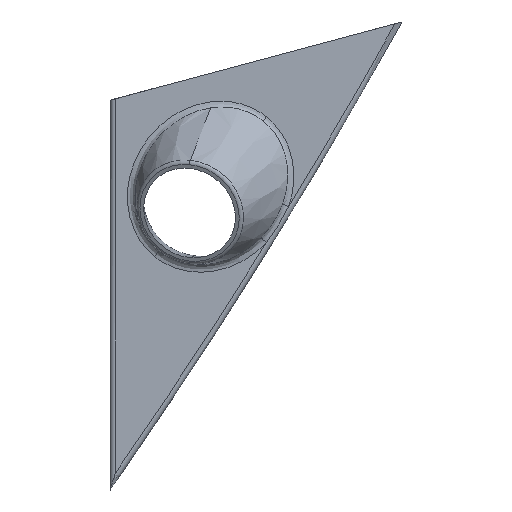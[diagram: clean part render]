
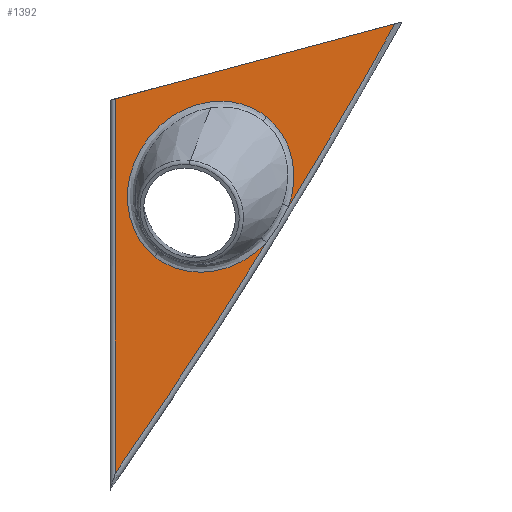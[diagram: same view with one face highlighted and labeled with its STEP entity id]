
A CAD part, front view. The second image highlights one B-rep face of the part: STEP entity #1392.
In plain terms, the highlighted planar face has unit normal (0, -1, 0).
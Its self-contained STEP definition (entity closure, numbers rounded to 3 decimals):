
#23 = EDGE_CURVE ( 'NONE', #779, #1607, #273, .T. ) ;
#26 = CARTESIAN_POINT ( 'NONE',  ( 58.993, 0., -53.756 ) ) ;
#33 = CARTESIAN_POINT ( 'NONE',  ( 2., 0., 998.433 ) ) ;
#96 = DIRECTION ( 'NONE',  ( 0., 0., 1. ) ) ;
#135 = ORIENTED_EDGE ( 'NONE', *, *, #1084, .T. ) ;
#137 = VERTEX_POINT ( 'NONE', #1573 ) ;
#164 = CARTESIAN_POINT ( 'NONE',  ( 59.074, 0., -6.306 ) ) ;
#176 = ORIENTED_EDGE ( 'NONE', *, *, #895, .T. ) ;
#208 = VECTOR ( 'NONE', #624, 1000. ) ;
#255 = CIRCLE ( 'NONE', #309, 1998. ) ;
#273 =( BOUNDED_CURVE ( )  B_SPLINE_CURVE ( 3, ( #1685, #1259, #999, #164 ),
 .UNSPECIFIED., .F., .F. ) 
 B_SPLINE_CURVE_WITH_KNOTS ( ( 4, 4 ),
 ( 3.142, 6.283 ),
 .UNSPECIFIED. ) 
 CURVE ( )  GEOMETRIC_REPRESENTATION_ITEM ( )  RATIONAL_B_SPLINE_CURVE ( ( 1., 0.333, 0.333, 1. ) ) 
 REPRESENTATION_ITEM ( '' )  );
#278 = LINE ( 'NONE', #1448, #208 ) ;
#294 = CARTESIAN_POINT ( 'NONE',  ( -1639.507, 0., 998.433 ) ) ;
#301 = CARTESIAN_POINT ( 'NONE',  ( 29.374, 0., -69.038 ) ) ;
#309 = AXIS2_PLACEMENT_3D ( 'NONE', #294, #1274, #577 ) ;
#310 = CARTESIAN_POINT ( 'NONE',  ( 2., 0., 0.536 ) ) ;
#350 = CARTESIAN_POINT ( 'NONE',  ( -1639.507, 0., 998.433 ) ) ;
#361 = CARTESIAN_POINT ( 'NONE',  ( -1639.507, 0., 998.433 ) ) ;
#406 = ORIENTED_EDGE ( 'NONE', *, *, #612, .T. ) ;
#417 = CARTESIAN_POINT ( 'NONE',  ( 67.38, 0., -40.095 ) ) ;
#429 = AXIS2_PLACEMENT_3D ( 'NONE', #350, #914, #1076 ) ;
#456 = CARTESIAN_POINT ( 'NONE',  ( 67.38, 0., -40.095 ) ) ;
#464 = PLANE ( 'NONE',  #429 ) ;
#514 = EDGE_LOOP ( 'NONE', ( #1097, #936, #1582, #406, #176, #1306, #135 ) ) ;
#570 = FACE_OUTER_BOUND ( 'NONE', #514, .T. ) ;
#577 = DIRECTION ( 'NONE',  ( 0., 0., 1. ) ) ;
#612 = EDGE_CURVE ( 'NONE', #1607, #1625, #1271, .T. ) ;
#624 = DIRECTION ( 'NONE',  ( 0.966, 0., 0.259 ) ) ;
#634 = VERTEX_POINT ( 'NONE', #1683 ) ;
#728 = DIRECTION ( 'NONE',  ( 0., 0., -1. ) ) ;
#734 = VERTEX_POINT ( 'NONE', #1591 ) ;
#779 = VERTEX_POINT ( 'NONE', #1734 ) ;
#813 = AXIS2_PLACEMENT_3D ( 'NONE', #361, #919, #96 ) ;
#825 = EDGE_CURVE ( 'NONE', #1793, #137, #278, .T. ) ;
#895 = EDGE_CURVE ( 'NONE', #1625, #137, #1466, .T. ) ;
#914 = DIRECTION ( 'NONE',  ( 0., 1., 0. ) ) ;
#919 = DIRECTION ( 'NONE',  ( 0., -1., 0. ) ) ;
#929 = LINE ( 'NONE', #33, #1216 ) ;
#936 = ORIENTED_EDGE ( 'NONE', *, *, #1233, .T. ) ;
#987 = CARTESIAN_POINT ( 'NONE',  ( 71.982, 0., -26.879 ) ) ;
#999 = CARTESIAN_POINT ( 'NONE',  ( 12.617, 0., 31.012 ) ) ;
#1012 = CARTESIAN_POINT ( 'NONE',  ( 16.798, 0., -58.936 ) ) ;
#1076 = DIRECTION ( 'NONE',  ( 0., 0., 1. ) ) ;
#1084 = EDGE_CURVE ( 'NONE', #1793, #734, #929, .T. ) ;
#1097 = ORIENTED_EDGE ( 'NONE', *, *, #1192, .T. ) ;
#1131 = CARTESIAN_POINT ( 'NONE',  ( 68.856, 0., -14.164 ) ) ;
#1146 = CARTESIAN_POINT ( 'NONE',  ( 46.377, 0., -66.95 ) ) ;
#1170 = CARTESIAN_POINT ( 'NONE',  ( 59.074, 0., -6.306 ) ) ;
#1192 = EDGE_CURVE ( 'NONE', #734, #634, #255, .T. ) ;
#1216 = VECTOR ( 'NONE', #728, 1000. ) ;
#1233 = EDGE_CURVE ( 'NONE', #634, #779, #1528, .T. ) ;
#1259 = CARTESIAN_POINT ( 'NONE',  ( -29.659, 0., -21.618 ) ) ;
#1271 =( BOUNDED_CURVE ( )  B_SPLINE_CURVE ( 3, ( #1675, #1131, #987, #417 ),
 .UNSPECIFIED., .F., .T. ) 
 B_SPLINE_CURVE_WITH_KNOTS ( ( 4, 4 ),
 ( 0., 1.188 ),
 .UNSPECIFIED. ) 
 CURVE ( )  GEOMETRIC_REPRESENTATION_ITEM ( )  RATIONAL_B_SPLINE_CURVE ( ( 1., 0.886, 0.886, 1. ) ) 
 REPRESENTATION_ITEM ( '' )  );
#1274 = DIRECTION ( 'NONE',  ( 0., -1., 0. ) ) ;
#1306 = ORIENTED_EDGE ( 'NONE', *, *, #825, .F. ) ;
#1392 = ADVANCED_FACE ( 'NONE', ( #570 ), #464, .F. ) ;
#1448 = CARTESIAN_POINT ( 'NONE',  ( 0., 0., 0. ) ) ;
#1466 = CIRCLE ( 'NONE', #813, 1998. ) ;
#1528 =( BOUNDED_CURVE ( )  B_SPLINE_CURVE ( 3, ( #26, #1146, #301, #1012 ),
 .UNSPECIFIED., .F., .T. ) 
 B_SPLINE_CURVE_WITH_KNOTS ( ( 4, 4 ),
 ( 1.668, 3.142 ),
 .UNSPECIFIED. ) 
 CURVE ( )  GEOMETRIC_REPRESENTATION_ITEM ( )  RATIONAL_B_SPLINE_CURVE ( ( 1., 0.827, 0.827, 1. ) ) 
 REPRESENTATION_ITEM ( '' )  );
#1573 = CARTESIAN_POINT ( 'NONE',  ( 107.43, 0., 28.786 ) ) ;
#1582 = ORIENTED_EDGE ( 'NONE', *, *, #23, .T. ) ;
#1591 = CARTESIAN_POINT ( 'NONE',  ( 2., 0., -140.627 ) ) ;
#1607 = VERTEX_POINT ( 'NONE', #1170 ) ;
#1625 = VERTEX_POINT ( 'NONE', #456 ) ;
#1675 = CARTESIAN_POINT ( 'NONE',  ( 59.074, 0., -6.306 ) ) ;
#1683 = CARTESIAN_POINT ( 'NONE',  ( 58.993, 0., -53.756 ) ) ;
#1685 = CARTESIAN_POINT ( 'NONE',  ( 16.798, 0., -58.936 ) ) ;
#1734 = CARTESIAN_POINT ( 'NONE',  ( 16.798, 0., -58.936 ) ) ;
#1793 = VERTEX_POINT ( 'NONE', #310 ) ;
